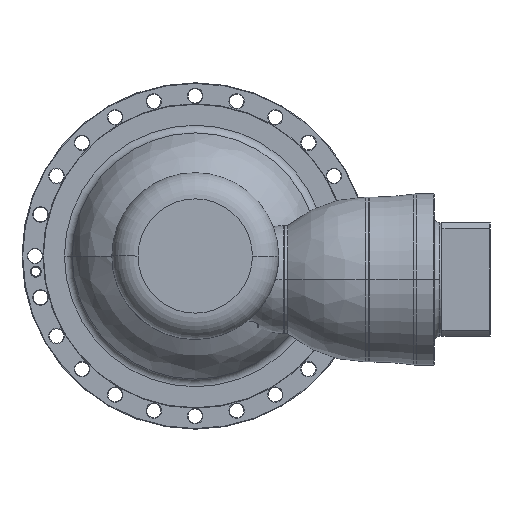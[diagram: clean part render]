
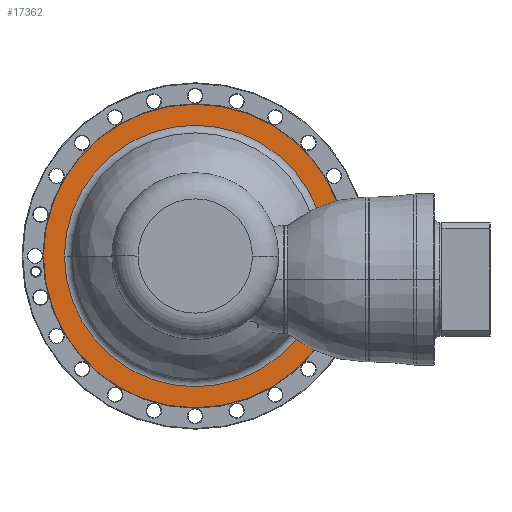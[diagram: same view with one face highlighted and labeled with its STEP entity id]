
A CAD part, left-side view. The second image highlights one B-rep face of the part: STEP entity #17362.
In plain terms, the highlighted planar face has unit normal (-1, 0, 0) as drawn and (1, 0, 0) by its records, which use the part's own axes.
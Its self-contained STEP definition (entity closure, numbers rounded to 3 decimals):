
#16833=CARTESIAN_POINT('',(-137.5,0.,0.));
#16834=DIRECTION('',(-1.,0.,0.));
#16835=DIRECTION('',(0.,-1.,0.));
#16836=AXIS2_PLACEMENT_3D('',#16833,#16834,#16835);
#16838=CARTESIAN_POINT('',(-137.5,0.,0.));
#16839=DIRECTION('',(-1.,0.,0.));
#16840=DIRECTION('',(0.,1.,0.));
#16841=AXIS2_PLACEMENT_3D('',#16838,#16839,#16840);
#16843=CARTESIAN_POINT('',(-137.5,0.,0.));
#16844=DIRECTION('',(1.,0.,0.));
#16845=DIRECTION('',(0.,-1.,0.));
#16846=AXIS2_PLACEMENT_3D('',#16843,#16844,#16845);
#16848=CARTESIAN_POINT('',(-137.5,0.,0.));
#16849=DIRECTION('',(1.,0.,0.));
#16850=DIRECTION('',(0.,1.,0.));
#16851=AXIS2_PLACEMENT_3D('',#16848,#16849,#16850);
#17080=CARTESIAN_POINT('',(-137.5,-232.2,0.));
#17081=CARTESIAN_POINT('',(-137.5,232.2,0.));
#17082=VERTEX_POINT('',#17080);
#17083=VERTEX_POINT('',#17081);
#17128=CARTESIAN_POINT('',(-137.5,-200.055,0.));
#17129=CARTESIAN_POINT('',(-137.5,200.055,0.));
#17130=VERTEX_POINT('',#17128);
#17131=VERTEX_POINT('',#17129);
#17346=CARTESIAN_POINT('',(-137.5,0.,0.));
#17347=DIRECTION('',(1.,0.,0.));
#17348=DIRECTION('',(0.,-1.,0.));
#17349=AXIS2_PLACEMENT_3D('',#17346,#17347,#17348);
#17350=PLANE('',#17349);
#17352=ORIENTED_EDGE('',*,*,#17351,.T.);
#17354=ORIENTED_EDGE('',*,*,#17353,.T.);
#17355=EDGE_LOOP('',(#17352,#17354));
#17356=FACE_OUTER_BOUND('',#17355,.F.);
#17357=ORIENTED_EDGE('',*,*,#17336,.T.);
#17359=ORIENTED_EDGE('',*,*,#17358,.T.);
#17360=EDGE_LOOP('',(#17357,#17359));
#17361=FACE_BOUND('',#17360,.F.);
#17362=ADVANCED_FACE('',(#17356,#17361),#17350,.T.);
#16837=CIRCLE('',#16836,232.2);
#16842=CIRCLE('',#16841,232.2);
#16847=CIRCLE('',#16846,200.055);
#16852=CIRCLE('',#16851,200.055);
#17336=EDGE_CURVE('',#17130,#17131,#16847,.T.);
#17351=EDGE_CURVE('',#17082,#17083,#16837,.T.);
#17353=EDGE_CURVE('',#17083,#17082,#16842,.T.);
#17358=EDGE_CURVE('',#17131,#17130,#16852,.T.);
